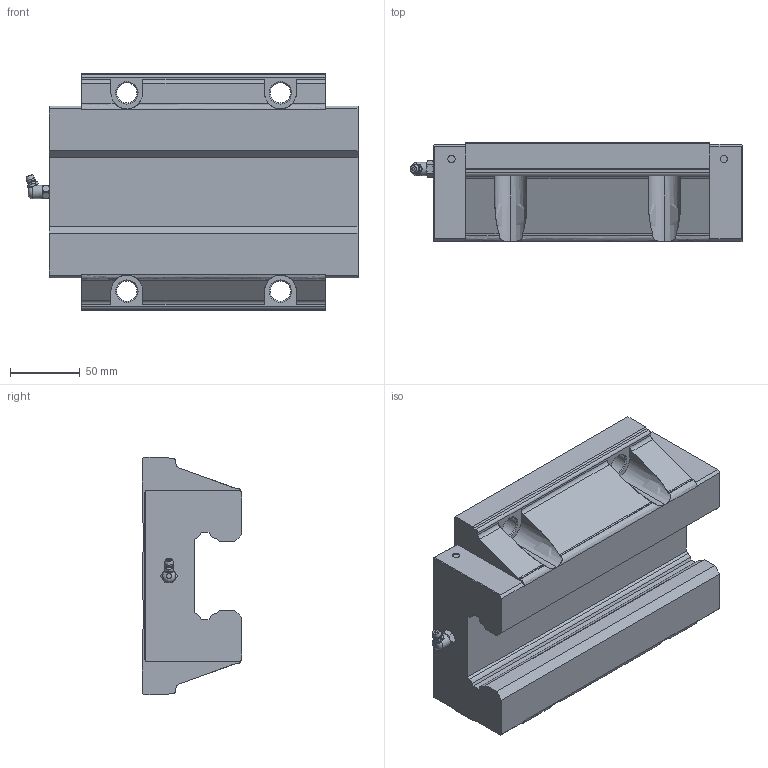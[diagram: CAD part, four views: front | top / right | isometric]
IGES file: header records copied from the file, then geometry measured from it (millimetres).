
Start section: Data from Parasolid IGES Translator 26.0.171, Copyright(c) 2006 Siemens PLM Software. All Rights Reserved.
Global section: file name: SHS65C1SS(GK) BLOCK(B-PT1_81).igs; native system: By Siemens PLM Incorporated; preprocessor: XPlus GENERIC/IGES 26.0.171; author: Noname; organization: Noname; date: 20240514.033722; units: millimetre
Bounding box: 237.7 x 71 x 170 mm (x, y, z)
Surface area: 138545.6 mm2 (no closed solid volume)
Topology: 0 solids, 0 shells, 168 faces, 941 edges, 926 vertices
Faces by surface type: extrusion 105, revolution 63
